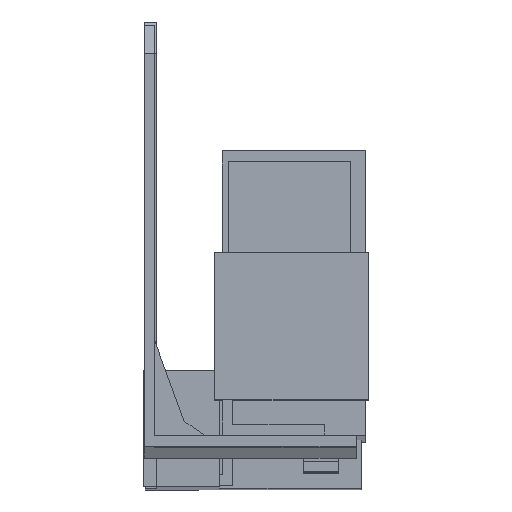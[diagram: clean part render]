
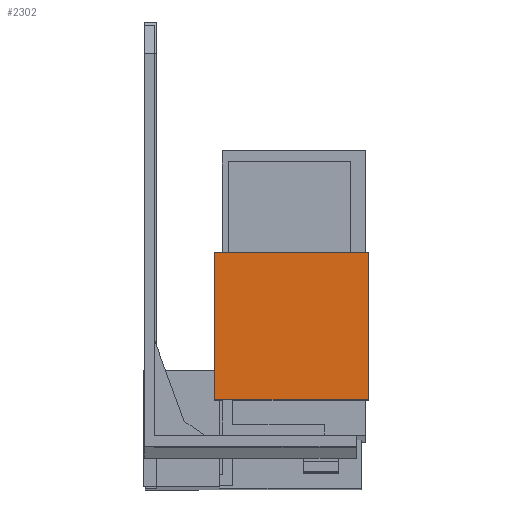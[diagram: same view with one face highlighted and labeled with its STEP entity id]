
A CAD part, front view. The second image highlights one B-rep face of the part: STEP entity #2302.
In plain terms, the highlighted planar face has unit normal (0, -1, 0.003).
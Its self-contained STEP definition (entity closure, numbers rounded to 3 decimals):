
#164 = DIRECTION ( 'NONE',  ( 0., -0.003, -1. ) ) ;
#198 = CARTESIAN_POINT ( 'NONE',  ( 9.3, -29.009, -40.322 ) ) ;
#199 = DIRECTION ( 'NONE',  ( 1., 0., 0. ) ) ;
#275 = CARTESIAN_POINT ( 'NONE',  ( 31.95, -28.952, -19.322 ) ) ;
#471 = PLANE ( 'NONE',  #3747 ) ;
#474 = CARTESIAN_POINT ( 'NONE',  ( 9.3, -29.009, -40.322 ) ) ;
#480 = DIRECTION ( 'NONE',  ( 0., -1., 0.003 ) ) ;
#675 = CARTESIAN_POINT ( 'NONE',  ( 10.05, -29.009, -40.322 ) ) ;
#676 = DIRECTION ( 'NONE',  ( 0., 0.003, 1. ) ) ;
#887 = CARTESIAN_POINT ( 'NONE',  ( 9.3, -28.952, -19.322 ) ) ;
#888 = DIRECTION ( 'NONE',  ( 1., 0., 0. ) ) ;
#943 = DIRECTION ( 'NONE',  ( -1., 0., 0. ) ) ;
#1101 = FACE_OUTER_BOUND ( 'NONE', #3868, .T. ) ;
#1160 = VECTOR ( 'NONE', #676, 1000. ) ;
#1161 = LINE ( 'NONE', #675, #1160 ) ;
#1486 = ORIENTED_EDGE ( 'NONE', *, *, #2013, .F. ) ;
#1487 = ORIENTED_EDGE ( 'NONE', *, *, #2243, .F. ) ;
#1488 = ORIENTED_EDGE ( 'NONE', *, *, #2101, .T. ) ;
#1489 = ORIENTED_EDGE ( 'NONE', *, *, #2124, .F. ) ;
#2013 = EDGE_CURVE ( 'NONE', #4734, #4763, #3153, .T. ) ;
#2101 = EDGE_CURVE ( 'NONE', #4733, #4766, #2532, .T. ) ;
#2124 = EDGE_CURVE ( 'NONE', #4763, #4766, #2504, .T. ) ;
#2243 = EDGE_CURVE ( 'NONE', #4733, #4734, #1161, .T. ) ;
#2302 = ADVANCED_FACE ( 'NONE', ( #1101 ), #471, .T. ) ;
#2466 = VECTOR ( 'NONE', #164, 1000. ) ;
#2504 = LINE ( 'NONE', #275, #2466 ) ;
#2531 = VECTOR ( 'NONE', #199, 1000. ) ;
#2532 = LINE ( 'NONE', #198, #2531 ) ;
#3152 = VECTOR ( 'NONE', #888, 1000. ) ;
#3153 = LINE ( 'NONE', #887, #3152 ) ;
#3747 = AXIS2_PLACEMENT_3D ( 'NONE', #474, #480, #943 ) ;
#3868 = EDGE_LOOP ( 'NONE', ( #1486, #1487, #1488, #1489 ) ) ;
#3969 = CARTESIAN_POINT ( 'NONE',  ( 10.05, -29.009, -40.322 ) ) ;
#4034 = CARTESIAN_POINT ( 'NONE',  ( 10.05, -28.952, -19.322 ) ) ;
#4314 = CARTESIAN_POINT ( 'NONE',  ( 31.95, -29.009, -40.322 ) ) ;
#4417 = CARTESIAN_POINT ( 'NONE',  ( 31.95, -28.952, -19.322 ) ) ;
#4733 = VERTEX_POINT ( 'NONE', #3969 ) ;
#4734 = VERTEX_POINT ( 'NONE', #4034 ) ;
#4763 = VERTEX_POINT ( 'NONE', #4417 ) ;
#4766 = VERTEX_POINT ( 'NONE', #4314 ) ;
